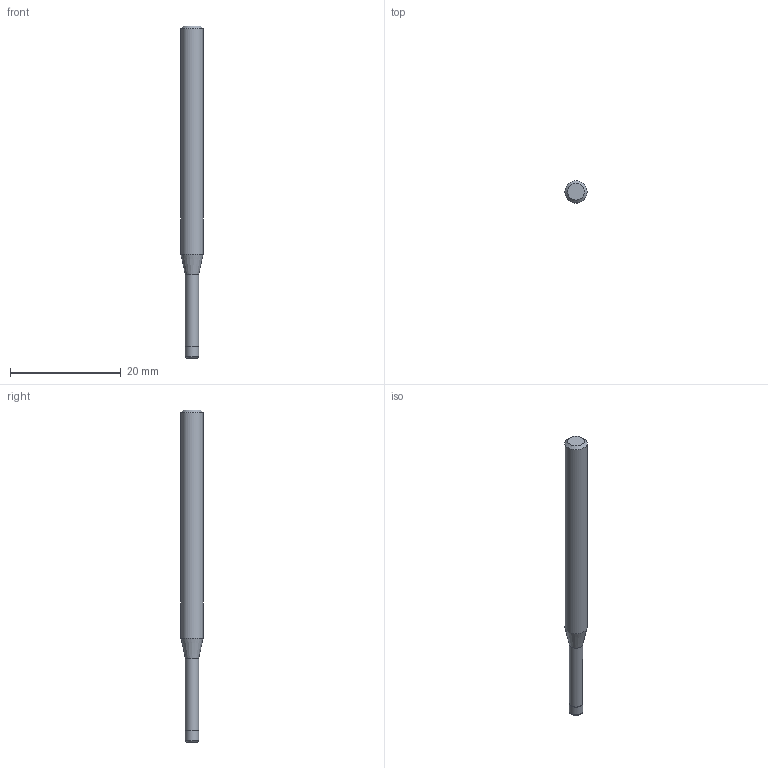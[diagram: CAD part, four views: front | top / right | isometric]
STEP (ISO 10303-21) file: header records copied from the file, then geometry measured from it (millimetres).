
FILE_DESCRIPTION((''),'2;1');
FILE_NAME('C:\Users\nsx150\AppData\Local\Temp\Mastercam 2021\CSMVKW3037\TEMP.step','2023-06-23T16:03:47',(''),(''),'STEP Write','Mastercam 2021 ... CNC Software, Inc.','');
FILE_SCHEMA(('AUTOMOTIVE_DESIGN'));
Length unit declared in the file: millimetre
Products named in the file (1): None
Bounding box: 4 x 4 x 60 mm (x, y, z)
Volume: 615.5 mm3; surface area: 691.9 mm2
Topology: 2 solids, 2 shells, 10 faces, 14 edges, 8 vertices
Faces by surface type: plane 4, cylinder 3, cone 2, torus 1
Full cylindrical faces by diameter (mm): 2.39 x1, 2.5 x1, 4 x1
Entity records: 232 total; most frequent: DIRECTION 40, CARTESIAN_POINT 28, AXIS2_PLACEMENT_3D 20, ORIENTED_EDGE 16, EDGE_LOOP 16, STYLED_ITEM 13, ADVANCED_FACE 10, FACE_BOUND 10
